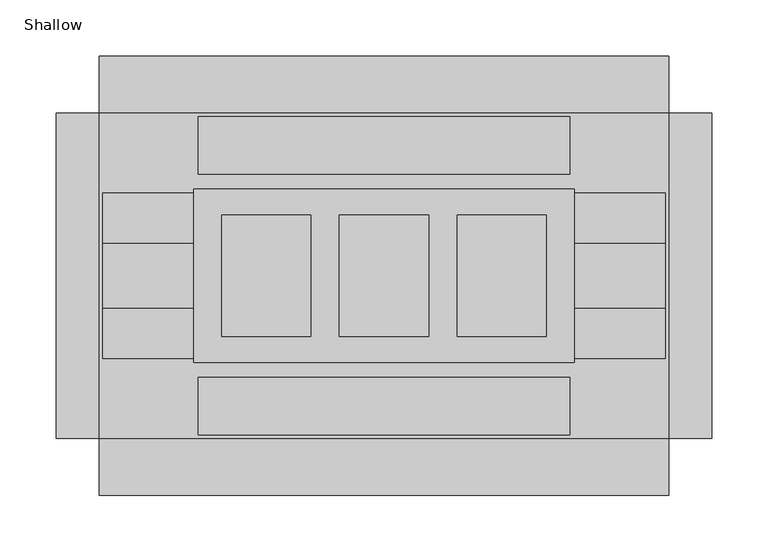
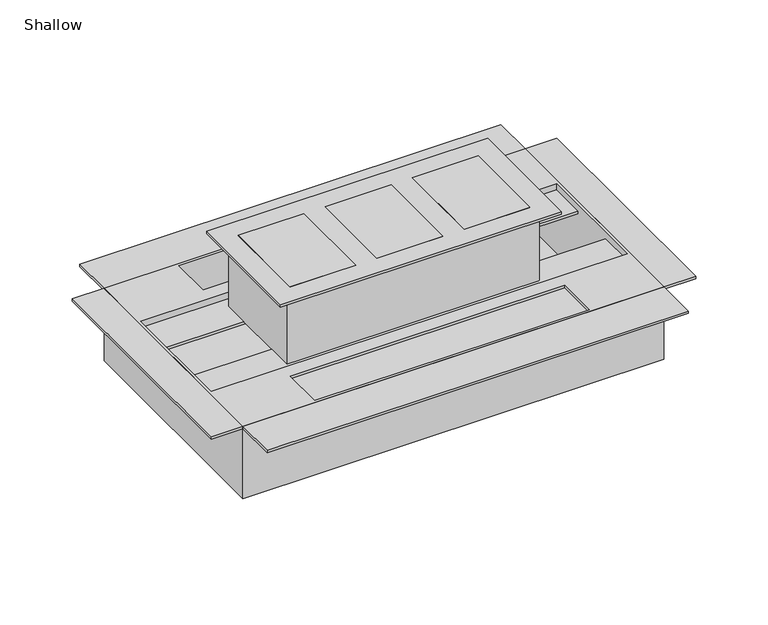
"""IFC4 building model written with IfcOpenShell, lengths in millimetres: proxy geometry, Floor_Box-OmniBox_Series-Wiremold-880_Steel-3_Gang-Fire_Classified : Shallow."""

from ifc_helpers import new_model, si_unit, frame, origin, origin_with_axes, place, context, project, spatial, polyline, circle_curve, outline, extrude, faceted_brep, source, transform, mapped, element, save
from ifc_brep_helpers import plane_surface, cylinder_surface, advanced_brep


def shallow_11c98d8f(model_context):
    return source(origin(), model_context, "Body", "SolidModel", [
        extrude(outline(polyline([(65.1129, 53.975), (144.4879, 53.975), (144.4879, -53.975), (65.1129, -53.975), (65.1129, 53.975)])), frame((0.0, 0.0, -9.525), z_axis=(0.0, 0.0, 1.0), x_axis=(1.0, 0.0, 0.0)), (0.0, 0.0, 1.0), 12.7),
        extrude(outline(polyline([(-144.4879, 53.975), (-65.1129, 53.975), (-65.1129, -53.975), (-144.4879, -53.975), (-144.4879, 53.975)])), frame((0.0, 0.0, -9.525), z_axis=(0.0, 0.0, 1.0), x_axis=(1.0, 0.0, 0.0)), (0.0, 0.0, 1.0), 12.7),
        extrude(outline(polyline([(-39.6875, 53.975), (39.6875, 53.975), (39.6875, -53.975), (-39.6875, -53.975), (-39.6875, 53.975)])), frame((0.0, 0.0, -9.525), z_axis=(0.0, 0.0, 1.0), x_axis=(1.0, 0.0, 0.0)), (0.0, 0.0, 1.0), 12.7),
        extrude(outline(polyline([(169.0751, 77.0001), (169.0751, -77.0001), (-169.0751, -77.0001), (-169.0751, 77.0001), (169.0751, 77.0001)]), holes=[polyline([(39.6875, 53.975), (-39.6875, 53.975), (-39.6875, -53.975), (39.6875, -53.975), (39.6875, 53.975)]), polyline([(144.4879, 53.975), (65.1129, 53.975), (65.1129, -53.975), (144.4879, -53.975), (144.4879, 53.975)]), polyline([(-65.1129, 53.975), (-144.4879, 53.975), (-144.4879, -53.975), (-65.1129, -53.975), (-65.1129, 53.975)])]), origin_with_axes(), (0.0, 0.0, 1.0), 3.175),
        faceted_brep([(-253.365, -144.653, -81.026), (253.365, -144.653, -81.026), (253.365, 144.653, -81.026), (-253.365, 144.653, -81.026), (-250.19, -73.533, -81.026), (-250.19, 73.533, -81.026), (250.19, 73.533, -81.026), (250.19, -73.533, -81.026), (-165.1, 141.478, -81.026), (165.1, 141.478, -81.026), (165.1, 90.54465, -81.026), (-165.1, 90.54465, -81.026), (165.1, -141.478, -81.026), (-165.1, -141.478, -81.026), (-165.1, -90.54465, -81.026), (165.1, -90.54465, -81.026), (-253.365, -144.653, -172.974), (-253.365, 144.653, -172.974), (253.365, 144.653, -172.974), (253.365, -144.653, -172.974), (-250.19, 141.478, -169.799), (-250.19, -141.478, -169.799), (250.19, -141.478, -169.799), (250.19, 141.478, -169.799), (-250.19, 141.478, -84.201), (-250.19, 76.708, -84.201), (-250.19, 76.708, -92.075), (-250.19, 29.083, -92.075), (-250.19, 29.083, -88.9), (-250.19, 73.533, -88.9), (-250.19, -73.533, -88.9), (-250.19, -29.083, -88.9), (-250.19, -29.083, -92.075), (-250.19, -76.708, -92.075), (-250.19, -76.708, -84.201), (-250.19, -141.478, -84.201), (-165.1, -141.478, -84.201), (165.1, -141.478, -84.201), (250.19, -141.478, -84.201), (250.19, -76.708, -84.201), (250.19, -76.708, -92.075), (250.19, -29.083, -92.075), (250.19, -29.083, -88.9), (250.19, -73.533, -88.9), (250.19, 73.533, -88.9), (250.19, 29.083, -88.9), (250.19, 29.083, -92.075), (250.19, 76.708, -92.075), (250.19, 76.708, -84.201), (250.19, 141.478, -84.201), (165.1, 141.478, -84.201), (-165.1, 141.478, -84.201), (165.1, -90.54465, -84.201), (-165.1, -90.54465, -84.201), (-165.1, 90.54465, -84.201), (165.1, 90.54465, -84.201)], [[[0, 1, 2, 3], [4, 5, 6, 7], [8, 9, 10, 11], [12, 13, 14, 15]], [[16, 17, 18, 19]], [[1, 0, 16, 19]], [[2, 1, 19, 18]], [[3, 2, 18, 17]], [[20, 21, 22, 23]], [[21, 20, 24, 25, 26, 27, 28, 29, 5, 4, 30, 31, 32, 33, 34, 35]], [[22, 21, 35, 36, 13, 12, 37, 38]], [[23, 22, 38, 39, 40, 41, 42, 43, 7, 6, 44, 45, 46, 47, 48, 49]], [[20, 23, 49, 50, 9, 8, 51, 24]], [[4, 7, 43, 30]], [[30, 43, 42, 31]], [[31, 42, 41, 32]], [[32, 41, 40, 33]], [[33, 40, 39, 34]], [[34, 39, 38, 37, 52, 53, 36, 35]], [[48, 25, 24, 51, 54, 55, 50, 49]], [[25, 48, 47, 26]], [[26, 47, 46, 27]], [[27, 46, 45, 28]], [[28, 45, 44, 29]], [[29, 44, 6, 5]], [[54, 11, 10, 55]], [[55, 10, 9, 50]], [[11, 54, 51, 8]], [[53, 14, 13, 36]], [[15, 52, 37, 12]], [[14, 53, 52, 15]], [[0, 3, 17, 16]]]),
        extrude(outline(polyline([(-253.365, -144.653), (253.365, -144.653), (253.365, -195.453), (-253.365, -195.453), (-253.365, -144.653)])), frame((0.0, 0.0, -84.201), z_axis=(0.0, 0.0, 1.0), x_axis=(1.0, 0.0, 0.0)), (0.0, 0.0, 1.0), 3.175),
        extrude(outline(polyline([(-253.365, 195.453), (253.365, 195.453), (253.365, 144.653), (-253.365, 144.653), (-253.365, 195.453)])), frame((0.0, 0.0, -84.201), z_axis=(0.0, 0.0, 1.0), x_axis=(1.0, 0.0, 0.0)), (0.0, 0.0, 1.0), 3.175),
        extrude(outline(polyline([(-253.365, 144.653), (-253.365, -144.653), (-291.465, -144.653), (-291.465, 144.653), (-253.365, 144.653)])), frame((0.0, 0.0, -84.201), z_axis=(0.0, 0.0, 1.0), x_axis=(1.0, 0.0, 0.0)), (0.0, 0.0, 1.0), 3.175),
        extrude(outline(polyline([(291.465, 144.653), (291.465, -144.653), (253.365, -144.653), (253.365, 144.653), (291.465, 144.653)])), frame((0.0, 0.0, -84.201), z_axis=(0.0, 0.0, 1.0), x_axis=(1.0, 0.0, 0.0)), (0.0, 0.0, 1.0), 3.175),
        advanced_brep(
        [(104.394, 0.0, -228.6), (140.97, 0.0, -228.6), (67.818, 0.0, -228.6), (140.97, 0.0, -172.974), (67.818, 0.0, -172.974), (104.394, 0.0, -172.974)],
        [
            (0, 1),
            (1, 2, circle_curve(frame((104.394, 0.0, -228.6), z_axis=(0.0, 0.0, -1.0), x_axis=(1.0, 0.0, 0.0)), 36.576)),
            (2, 0),
            (2, 1, circle_curve(frame((104.394, 0.0, -228.6), z_axis=(0.0, 0.0, -1.0), x_axis=(1.0, 0.0, 0.0)), 36.576)),
            (1, 3),
            (3, 4, circle_curve(frame((104.394, 0.0, -172.974), z_axis=(0.0, 0.0, -1.0), x_axis=(1.0, 0.0, 0.0)), 36.576)),
            (4, 2),
            (4, 3, circle_curve(frame((104.394, 0.0, -172.974), z_axis=(0.0, 0.0, -1.0), x_axis=(1.0, 0.0, 0.0)), 36.576)),
            (3, 5),
            (5, 4),
        ],
        [
            plane_surface(frame((104.394, 0.0, -228.6), z_axis=(0.0, 0.0, -1.0), x_axis=(1.0, 0.0, 0.0))),
            cylinder_surface(frame((104.394, 0.0, -138.43), z_axis=(0.0, 0.0, -1.0), x_axis=(1.0, 0.0, 0.0)), 36.576),
            plane_surface(frame((104.394, 0.0, -172.974), z_axis=(0.0, 0.0, 1.0), x_axis=(1.0, 0.0, 0.0))),
        ],
        [
            (0, [[1, 2, 3]]),
            (0, [[-1, -3, 4]]),
            (1, [[-2, 5, 6, 7]]),
            (1, [[-4, -7, 8, -5]]),
            (2, [[-6, 9, 10]]),
            (2, [[-8, -10, -9]]),
        ],
    ),
        advanced_brep(
        [(-59.944, 0.0, -228.6), (-148.844, 0.0, -228.6), (-104.394, 0.0, -228.6), (-59.944, 0.0, -172.974), (-148.844, 0.0, -172.974), (-104.394, 0.0, -172.974)],
        [
            (0, 1, circle_curve(frame((-104.394, 0.0, -228.6), z_axis=(0.0, 0.0, -1.0), x_axis=(-1.0, 0.0, 0.0)), 44.45)),
            (1, 2),
            (2, 0),
            (1, 0, circle_curve(frame((-104.394, 0.0, -228.6), z_axis=(0.0, 0.0, -1.0), x_axis=(-1.0, 0.0, 0.0)), 44.45)),
            (0, 3),
            (3, 4, circle_curve(frame((-104.394, 0.0, -172.974), z_axis=(0.0, 0.0, -1.0), x_axis=(-1.0, 0.0, 0.0)), 44.45)),
            (4, 1),
            (4, 3, circle_curve(frame((-104.394, 0.0, -172.974), z_axis=(0.0, 0.0, -1.0), x_axis=(-1.0, 0.0, 0.0)), 44.45)),
            (3, 5),
            (5, 4),
        ],
        [
            plane_surface(frame((-104.394, 0.0, -228.6), z_axis=(0.0, 0.0, -1.0), x_axis=(-1.0, 0.0, 0.0))),
            cylinder_surface(frame((-104.394, 0.0, -61.1886), z_axis=(0.0, 0.0, 1.0), x_axis=(-1.0, 0.0, 0.0)), 44.45),
            plane_surface(frame((-104.394, 0.0, -172.974), z_axis=(0.0, 0.0, 1.0), x_axis=(-1.0, 0.0, 0.0))),
        ],
        [
            (0, [[1, 2, 3]]),
            (0, [[-2, 4, -3]]),
            (1, [[-1, 5, 6, 7]]),
            (1, [[-4, -7, 8, -5]]),
            (2, [[-6, 9, 10]]),
            (2, [[-8, -10, -9]]),
        ],
    ),
        advanced_brep(
        [(0.0, 0.0, -172.974), (-44.45, 0.0, -172.974), (44.45, 0.0, -172.974), (44.45, 0.0, -228.6), (-44.45, 0.0, -228.6), (0.0, 0.0, -228.6)],
        [
            (0, 1),
            (1, 2, circle_curve(frame((0.0, 0.0, -172.974), z_axis=(0.0, 0.0, 1.0), x_axis=(-1.0, 0.0, 0.0)), 44.45)),
            (2, 0),
            (2, 1, circle_curve(frame((0.0, 0.0, -172.974), z_axis=(0.0, 0.0, 1.0), x_axis=(-1.0, 0.0, 0.0)), 44.45)),
            (3, 4, circle_curve(frame((0.0, 0.0, -228.6), z_axis=(0.0, 0.0, -1.0), x_axis=(-1.0, 0.0, 0.0)), 44.45)),
            (4, 5),
            (5, 3),
            (4, 3, circle_curve(frame((0.0, 0.0, -228.6), z_axis=(0.0, 0.0, -1.0), x_axis=(-1.0, 0.0, 0.0)), 44.45)),
            (1, 4),
            (3, 2),
        ],
        [
            plane_surface(frame((0.0, 0.0, -172.974), z_axis=(0.0, 0.0, 1.0), x_axis=(-1.0, 0.0, 0.0))),
            plane_surface(frame((0.0, 0.0, -228.6), z_axis=(0.0, 0.0, -1.0), x_axis=(-1.0, 0.0, 0.0))),
            cylinder_surface(frame((0.0, 0.0, -95.7326), z_axis=(0.0, 0.0, 1.0), x_axis=(-1.0, 0.0, 0.0)), 44.45),
        ],
        [
            (0, [[1, 2, 3]]),
            (0, [[-1, -3, 4]]),
            (1, [[5, 6, 7]]),
            (1, [[-6, 8, -7]]),
            (2, [[-2, 9, -5, 10]]),
            (2, [[-4, -10, -8, -9]]),
        ],
    ),
        extrude(outline(polyline([(-151.892, 60.579), (151.892, 60.579), (151.892, -60.579), (-151.892, -60.579), (-151.892, 60.579)])), frame((0.0, 0.0, -88.9), z_axis=(0.0, 0.0, 1.0), x_axis=(1.0, 0.0, 0.0)), (0.0, 0.0, 1.0), 88.9),
    ])


if __name__ == "__main__":
    model = new_model("IFC4")
    model_context = context("Model", 3, world=origin())
    ifc_project = project(units=[si_unit("LENGTHUNIT", "METRE", prefix="MILLI")], contexts=[model_context])
    site = spatial("IfcSite", under=ifc_project)
    building = spatial("IfcBuilding", under=site)
    placement = place(None, origin())
    shallow_shape = shallow_11c98d8f(model_context)
    element("IfcBuildingElementProxy", 1, Name="Floor_Box-OmniBox_Series-Wiremold-880_Steel-3_Gang-Fire_Classified : Shallow", ObjectType="Floor_Box-OmniBox_Series-Wiremold-880_Steel-3_Gang-Fire_Classified : Shallow", at=placement, inside=building, context=model_context, shape_type="MappedRepresentation", body=[
        mapped(shallow_shape, transform((0.0, 0.0, 0.0), x_axis=(1.0, 0.0, 0.0), y_axis=(0.0, 1.0, 0.0), z_axis=(0.0, 0.0, 1.0))),
    ])
    save(model, "model.ifc")
